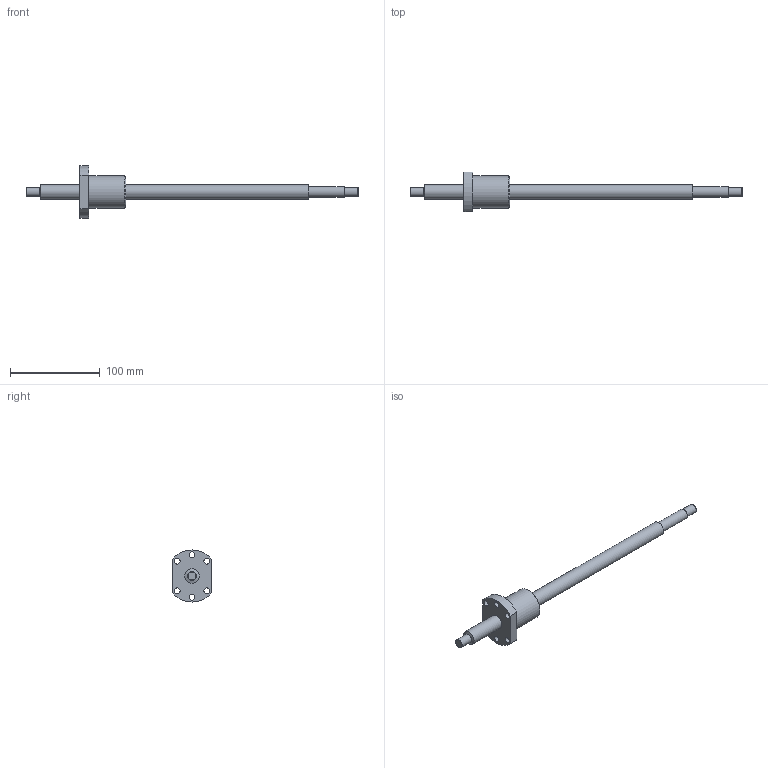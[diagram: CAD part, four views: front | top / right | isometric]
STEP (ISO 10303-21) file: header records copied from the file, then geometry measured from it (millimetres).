
FILE_DESCRIPTION(('STEP AP203'), '1');
FILE_NAME('PL1605-1-370', '2022-08-09T13:15:35', ('Test'), ('Test'), 'ASCON STEP Converter 1.6', 'ASCON Math Kernel', '');
FILE_SCHEMA(('CONFIG_CONTROL_DESIGN'));
Length unit declared in the file: millimetre
Bounding box: 370 x 44 x 58 mm (x, y, z)
Volume: 118593.4 mm3; surface area: 31750.2 mm2
Topology: 2 solids, 2 shells, 34 faces, 70 edges, 45 vertices
Faces by surface type: cylinder 14, cone 11, plane 9
Full cylindrical faces by diameter (mm): 6.6 x6, 10 x2, 12 x1, 16 x1, 16.5 x1, 36 x1
Entity records: 1150 total; most frequent: DIRECTION 156, CARTESIAN_POINT 127, ORIENTED_EDGE 94, AXIS2_PLACEMENT_3D 74, EDGE_LOOP 74, EDGE_CURVE 47, FACE_OUTER_BOUND 44, VERTEX_POINT 43
